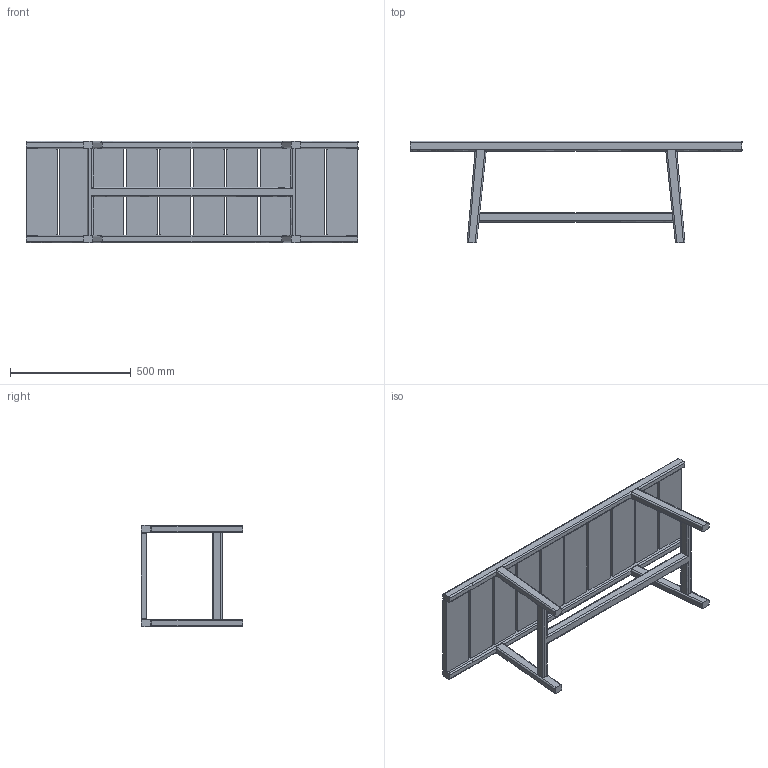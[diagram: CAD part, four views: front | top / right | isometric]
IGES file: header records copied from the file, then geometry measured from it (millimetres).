
Start section: SolidWorks IGES file using analytic representation for surfaces
Global section: file name: C:\Users\Utilizador\Desktop\Outdoor Files\577 Outdoor Bench\3D IGS\577 Outdoor Bench_3D IGS.IGS; native system: SolidWorks 2016; preprocessor: SolidWorks 2016; author: Utilizador; date: 220124.153655; units: millimetre
Bounding box: 1376.1 x 420 x 420 mm (x, y, z)
Surface area: 1828751.9 mm2 (no closed solid volume)
Topology: 0 solids, 0 shells, 270 faces, 3040 edges, 3040 vertices
Faces by surface type: bspline 194, revolution 76
